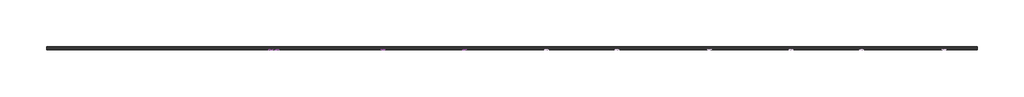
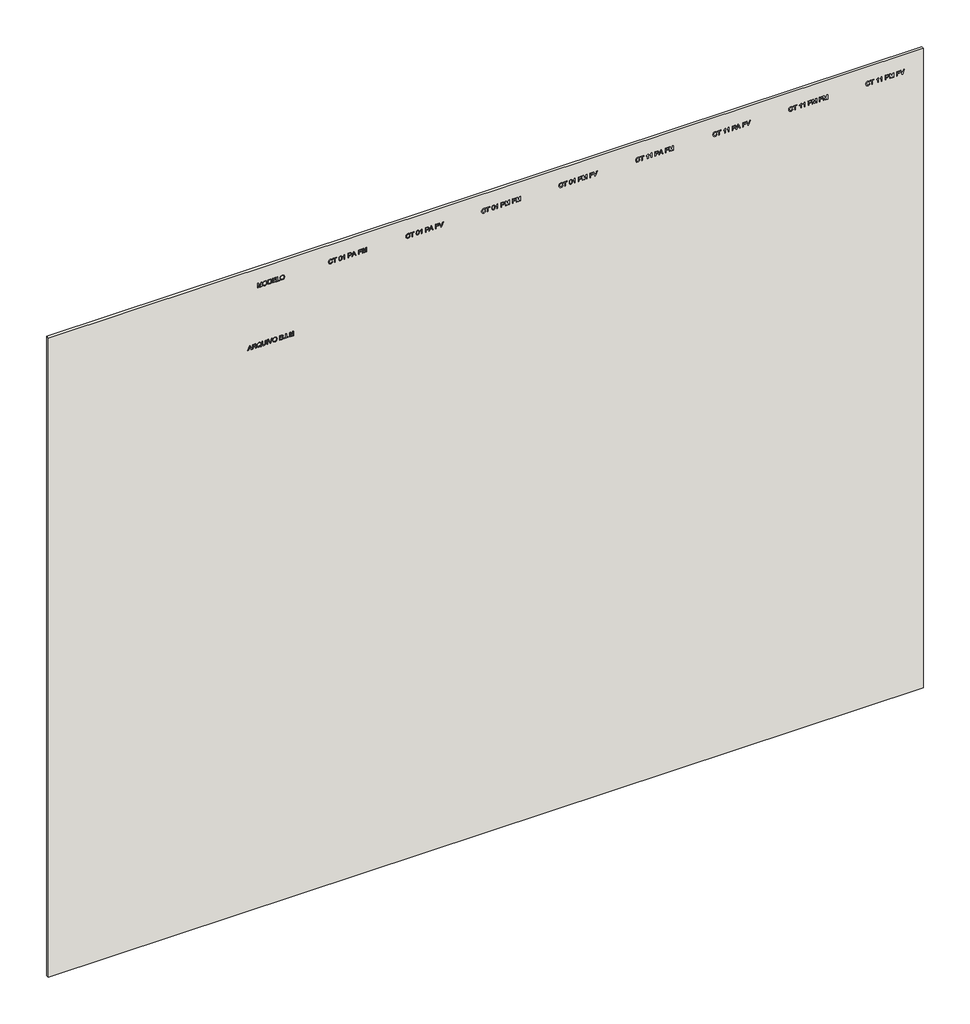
# One storey, part 1 of 2: 4 proxies, 1 wall.
"""IFC4 building model written with IfcOpenShell, lengths in millimetres."""

from ifc_helpers import new_model, si_unit, frame, origin, place, context, project, spatial, polyline, outline, extrude, element, save

model = new_model("IFC4")

# Units and contexts
model_context = context("Model", 3, world=origin())
ifc_project = project(units=[si_unit("LENGTHUNIT", "METRE", prefix="MILLI")], contexts=[model_context])

# Site, building, storey
site = spatial("IfcSite", under=ifc_project)
building = spatial("IfcBuilding", under=site)
storey = spatial("IfcBuildingStorey", under=building, Name="01 - Marelli - Planta Baixa - Cabine 01 Pessoa", Elevation=0.0)

# Proxies
placement = place(None, origin())
element("IfcBuildingElementProxy", 1, Name="300mm Arial", ObjectType="300mm Arial", at=placement, inside=storey, context=model_context, shape_type="SweptSolid", body=[
    extrude(outline(polyline([(1600.0, -7636.3146377), (1600.0, -7596.5098058), (1694.1777908, -7562.076051), (1694.1777908, -7437.9526659), (1600.0, -7403.4453347), (1600.0, -7363.6405028), (1901.3689304, -7483.9379153), (1901.3689304, -7516.0172252), (1600.0, -7636.3146377)]), holes=[polyline([(1731.8489071, -7548.243688), (1812.415064, -7518.739552), (1863.6978141, -7499.9775703), (1805.9403409, -7478.8611437), (1731.8489071, -7451.7114525), (1731.8489071, -7548.243688)])]), frame((0.0, 8778.3159498, 0.0), z_axis=(0.0, 1.0, 0.0), x_axis=(0.0, 0.0, 1.0)), (0.0, 0.0, 1.0), 10.0),
    extrude(outline(polyline([(1600.0, -7323.3942126), (1600.0, -7285.7230963), (1731.8489071, -7285.7230963), (1731.8489071, -7240.2528817), (1730.5245319, -7218.4006911), (1723.350833, -7200.484838), (1703.816299, -7180.582422), (1662.4663628, -7152.2555084), (1600.0, -7113.0392877), (1600.0, -7069.2613303), (1681.6698029, -7119.5140108), (1720.4445652, -7150.0482164), (1736.5577966, -7171.4589486), (1746.5457928, -7134.3488523), (1754.5610217, -7119.9669655), (1764.5904046, -7108.3671864), (1789.2017101, -7093.0540983), (1818.8897871, -7087.9497357), (1842.7561316, -7091.0307474), (1864.4703663, -7100.2737825), (1881.9815493, -7114.6763626), (1893.2387384, -7133.2360093), (1899.3363824, -7158.629064), (1901.3689304, -7193.5318683), (1901.3689304, -7323.3942126), (1600.0, -7323.3942126)]), holes=[polyline([(1769.5200234, -7285.7230963), (1863.6978141, -7285.7230963), (1863.6978141, -7191.9131875), (1860.4420585, -7162.1055488), (1850.6747915, -7141.5501423), (1835.8675412, -7129.6031746), (1817.4918355, -7125.620852), (1804.1837044, -7127.7085823), (1791.9240369, -7133.9717732), (1781.7888879, -7144.254075), (1774.8543123, -7158.3991377), (1770.8535956, -7177.1887106), (1769.5200234, -7201.404543), (1769.5200234, -7285.7230963)])]), frame((0.0, 8778.3159498, 0.0), z_axis=(0.0, 1.0, 0.0), x_axis=(0.0, 0.0, 1.0)), (0.0, 0.0, 1.0), 10.0),
    extrude(outline(polyline([(1636.1260119, -6795.6307023), (1659.6520655, -6777.1814202), (1686.9673037, -6764.0664271), (1718.0349382, -6756.2305406), (1752.8181808, -6753.6185784), (1794.6463636, -6757.9227978), (1831.9863862, -6770.8354558), (1863.1827793, -6791.9610794), (1886.5800742, -6820.9041954), (1901.2033836, -6855.7702114), (1906.07782, -6894.6645354), (1901.3137481, -6933.2553567), (1887.0215326, -6967.9466288), (1863.6150407, -6996.93573), (1831.5081396, -7018.4200386), (1793.055274, -7031.7189727), (1750.6108888, -7036.1519507), (1708.2032918, -7031.7097756), (1670.3022493, -7018.3832504), (1638.6460036, -6996.8161684), (1614.9727972, -6967.6523232), (1600.2115321, -6932.8322924), (1595.2911105, -6894.2966534), (1599.5585416, -6855.9449554), (1612.360835, -6821.0881364), (1591.52032, -6790.1308665), (1577.1177399, -6759.063232), (1604.7088895, -6748.9096889), (1617.5295771, -6771.2953083), (1636.1260119, -6795.6307023)]), holes=[polyline([(1686.2315397, -6883.9223811), (1657.3895912, -6893.6344658), (1650.712533, -6873.2721974), (1640.6877487, -6853.9767867), (1634.8936072, -6873.6032912), (1632.9622268, -6894.5173826), (1634.8637168, -6916.2385151), (1640.568187, -6935.9316982), (1650.0756373, -6953.5969318), (1663.3860678, -6969.2342158), (1680.251158, -6982.0296115), (1700.4225876, -6991.1691798), (1723.9003567, -6996.6529208), (1750.6844652, -6998.4808344), (1778.1859436, -6996.6322274), (1802.0499888, -6991.0864063), (1822.2766007, -6981.8433712), (1838.8657795, -6968.903122), (1851.7899338, -6953.1577726), (1861.0214726, -6935.4994369), (1866.5603959, -6915.9281147), (1868.4067037, -6894.4438062), (1864.7554749, -6865.9605427), (1853.8017885, -6840.4019411), (1836.2354232, -6819.2027411), (1812.7461578, -6803.7976826), (1784.0605592, -6794.4166917), (1750.9051944, -6791.2896947), (1721.7321522, -6793.5015852), (1696.4586591, -6800.1372567), (1675.0847152, -6811.1967092), (1657.6103204, -6826.6799427), (1674.2569807, -6852.2477413), (1686.2315397, -6883.9223811)])]), frame((0.0, 8778.3159498, 0.0), z_axis=(0.0, 1.0, 0.0), x_axis=(0.0, 0.0, 1.0)), (0.0, 0.0, 1.0), 10.0),
    extrude(outline(polyline([(1901.3689304, -6499.3385434), (1728.8322747, -6499.3385434), (1681.6698029, -6504.1026152), (1664.9311721, -6510.057705), (1652.7542781, -6518.3948307), (1644.0952556, -6529.5278596), (1637.9102396, -6543.8706589), (1632.9622268, -6582.1855687), (1635.4638243, -6606.3554158), (1642.968617, -6626.4785609), (1655.0811317, -6641.9112106), (1671.4058953, -6652.0095714), (1694.9779341, -6657.5829836), (1728.8322747, -6659.4407877), (1901.3689304, -6659.4407877), (1901.3689304, -6697.111904), (1727.5078995, -6697.111904), (1684.7324205, -6694.2516215), (1652.0553023, -6685.6707739), (1627.6923172, -6670.4036711), (1609.8592375, -6647.4846228), (1598.9331422, -6616.904432), (1595.2911105, -6578.6539015), (1599.4757682, -6539.5480454), (1612.0297412, -6508.7563224), (1631.2515755, -6486.2235502), (1655.4398167, -6471.8945465), (1686.7925597, -6464.2242069), (1727.5078995, -6461.6674271), (1901.3689304, -6461.6674271), (1901.3689304, -6499.3385434)])), frame((0.0, 8778.3159498, 0.0), z_axis=(0.0, 1.0, 0.0), x_axis=(0.0, 0.0, 1.0)), (0.0, 0.0, 1.0), 10.0),
    extrude(outline(polyline([(-6353.3629677, 8778.3159498), (-6391.034084, 8778.3159498), (-6391.034084, 8788.3159498), (-6353.3629677, 8788.3159498), (-6353.3629677, 8778.3159498)])), frame((0.0, 0.0, 1600.0), z_axis=(0.0, 0.0, 1.0), x_axis=(1.0, 0.0, 0.0)), (0.0, 0.0, 1.0), 301.3689304),
    extrude(outline(polyline([(1600.0, -6188.9932922), (1600.0, -6150.0713771), (1901.3689304, -6035.2186183), (1901.3689304, -6075.5384849), (1684.2449769, -6156.0310655), (1635.3166715, -6172.0707205), (1684.2449769, -6188.3311046), (1901.3689304, -6268.602956), (1901.3689304, -6308.9228227), (1600.0, -6188.9932922)])), frame((0.0, 8778.3159498, 0.0), z_axis=(0.0, 1.0, 0.0), x_axis=(0.0, 0.0, 1.0)), (0.0, 0.0, 1.0), 10.0),
    extrude(outline(polyline([(1746.7113397, -6014.3229209), (1708.1665036, -6010.0187016), (1671.7002009, -5997.1060436), (1640.007167, -5975.8424642), (1615.7821376, -5946.485481), (1600.4138672, -5910.8377157), (1595.2911105, -5870.70179), (1599.9264236, -5832.892718), (1613.832363, -5797.7507904), (1636.7514113, -5767.7868019), (1668.4260511, -5745.5115471), (1706.8881137, -5731.6883811), (1750.1694304, -5727.0806591), (1792.8805301, -5731.4584548), (1830.8091638, -5744.5918421), (1862.4286213, -5766.0761506), (1886.2121922, -5795.5067102), (1901.1114131, -5830.9521404), (1906.07782, -5870.4810608), (1903.4336681, -5900.7715446), (1895.5012126, -5928.1465636), (1882.2804534, -5952.6061177), (1863.7713905, -5974.1502071), (1840.5902263, -5991.7257694), (1813.3531631, -6004.2797425), (1782.0602009, -6011.8121263), (1746.7113397, -6014.3229209)]), holes=[polyline([(1746.3434577, -5976.6518046), (1776.8799625, -5974.6882345), (1802.7121764, -5968.797524), (1823.8400992, -5958.9796733), (1840.263731, -5945.2346822), (1852.5762816, -5928.7673644), (1861.3709605, -5910.7825334), (1866.6477679, -5891.2801891), (1868.4067037, -5870.2603316), (1864.7554749, -5841.0964864), (1853.8017885, -5814.9676677), (1836.2078321, -5793.3086153), (1812.6357932, -5777.5540688), (1783.8122389, -5767.9523488), (1750.463736, -5764.7517754), (1723.9256486, -5766.6210758), (1700.5973316, -5772.228977), (1680.478785, -5781.5754789), (1663.5700088, -5794.6605816), (1650.1791041, -5810.642755), (1640.6141723, -5828.6804691), (1634.8752131, -5848.7737238), (1632.9622268, -5870.9225192), (1634.856819, -5892.6988341), (1640.5405959, -5912.557564), (1650.0135572, -5930.4987091), (1663.2757032, -5946.5222692), (1679.8349915, -5959.703941), (1699.19938, -5969.1194208), (1721.3688687, -5974.7687087), (1746.3434577, -5976.6518046)])]), frame((0.0, 8778.3159498, 0.0), z_axis=(0.0, 1.0, 0.0), x_axis=(0.0, 0.0, 1.0)), (0.0, 0.0, 1.0), 10.0),
    extrude(outline(polyline([(1600.0, -5557.5606357), (1600.0, -5443.4436408), (1605.1871361, -5395.1407348), (1611.6066769, -5377.10532), (1620.4910271, -5362.3624491), (1632.7598917, -5350.3235108), (1649.3329756, -5340.399894), (1668.8215242, -5333.7504269), (1689.8367832, -5331.5339379), (1715.055094, -5334.7804965), (1736.7049494, -5344.5201723), (1753.6643094, -5360.2931129), (1764.8111338, -5381.6394656), (1776.5557665, -5363.7695977), (1791.4825785, -5351.0684718), (1808.543106, -5343.4809057), (1826.6888854, -5340.951717), (1846.4073604, -5343.9591523), (1865.2429185, -5352.9814582), (1881.2549824, -5367.3104619), (1892.5029744, -5386.2379906), (1899.1524414, -5410.9320695), (1901.3689304, -5442.560724), (1901.3689304, -5557.5606357), (1600.0, -5557.5606357)]), holes=[polyline([(1778.9378025, -5519.8895194), (1863.6978141, -5519.8895194), (1863.6978141, -5456.3195106), (1859.7614768, -5407.9062401), (1854.1604734, -5395.4166463), (1845.230138, -5386.2012024), (1833.7890079, -5380.5174255), (1820.6556207, -5378.6228333), (1807.1267603, -5380.6553813), (1796.1178916, -5386.7530254), (1787.7577733, -5396.8605832), (1782.175164, -5410.9228724), (1778.9378025, -5451.0955863), (1778.9378025, -5519.8895194)]), polyline([(1637.6711163, -5519.8895194), (1741.2666861, -5519.8895194), (1741.2666861, -5446.3131204), (1740.0066903, -5419.4853259), (1736.2267028, -5399.776048), (1729.3381125, -5385.8609115), (1718.752308, -5376.4155413), (1705.2142506, -5371.007676), (1689.4689012, -5369.2050542), (1675.9124497, -5370.7409615), (1664.0850436, -5375.3486835), (1647.3464128, -5391.0204565), (1639.1426443, -5414.6752688), (1637.6711163, -5442.6343004), (1637.6711163, -5519.8895194)])]), frame((0.0, 8778.3159498, 0.0), z_axis=(0.0, 1.0, 0.0), x_axis=(0.0, 0.0, 1.0)), (0.0, 0.0, 1.0), 10.0),
    extrude(outline(polyline([(-5237.3561471, 8778.3159498), (-5275.0272634, 8778.3159498), (-5275.0272634, 8788.3159498), (-5237.3561471, 8788.3159498), (-5237.3561471, 8778.3159498)])), frame((0.0, 0.0, 1600.0), z_axis=(0.0, 0.0, 1.0), x_axis=(1.0, 0.0, 0.0)), (0.0, 0.0, 1.0), 37.6711163),
    extrude(outline(polyline([(-5119.6339087, 8778.3159498), (-5157.305025, 8778.3159498), (-5157.305025, 8788.3159498), (-5119.6339087, 8788.3159498), (-5119.6339087, 8778.3159498)])), frame((0.0, 0.0, 1600.0), z_axis=(0.0, 0.0, 1.0), x_axis=(1.0, 0.0, 0.0)), (0.0, 0.0, 1.0), 301.3689304),
    extrude(outline(polyline([(-5001.9116702, 8778.3159498), (-5039.5827865, 8778.3159498), (-5039.5827865, 8788.3159498), (-5001.9116702, 8788.3159498), (-5001.9116702, 8778.3159498)])), frame((0.0, 0.0, 1600.0), z_axis=(0.0, 0.0, 1.0), x_axis=(1.0, 0.0, 0.0)), (0.0, 0.0, 1.0), 37.6711163),
    extrude(outline(polyline([(1600.0, -4926.5694376), (1600.0, -4888.8983213), (1863.6978141, -4888.8983213), (1600.0, -4813.1882067), (1600.0, -4762.1261857), (1863.6978141, -4686.4160711), (1600.0, -4686.4160711), (1600.0, -4648.7449548), (1901.3689304, -4648.7449548), (1901.3689304, -4713.5657624), (1692.6326864, -4774.1927152), (1644.5872978, -4787.6571962), (1688.9538664, -4800.0916076), (1901.3689304, -4861.74863), (1901.3689304, -4926.5694376), (1600.0, -4926.5694376)])), frame((0.0, 8778.3159498, 0.0), z_axis=(0.0, 1.0, 0.0), x_axis=(0.0, 0.0, 1.0)), (0.0, 0.0, 1.0), 10.0),
])
element("IfcBuildingElementProxy", 2, Name="300mm Arial", ObjectType="300mm Arial", at=placement, inside=storey, context=model_context, shape_type="SweptSolid", body=[
    extrude(outline(polyline([(5700.0, -6993.7719449), (5700.0, -6956.1008286), (5963.6978141, -6956.1008286), (5700.0, -6880.390714), (5700.0, -6829.328693), (5963.6978141, -6753.6185784), (5700.0, -6753.6185784), (5700.0, -6715.9474621), (6001.3689304, -6715.9474621), (6001.3689304, -6780.7682697), (5792.6326864, -6841.3952225), (5744.5872978, -6854.8597035), (5788.9538664, -6867.2941149), (6001.3689304, -6928.9511373), (6001.3689304, -6993.7719449), (5700.0, -6993.7719449)])), frame((0.0, 8778.3159498, 0.0), z_axis=(0.0, 1.0, 0.0), x_axis=(0.0, 0.0, 1.0)), (0.0, 0.0, 1.0), 10.0),
    extrude(outline(polyline([(5846.7113397, -6664.1496772), (5808.1665036, -6659.8454579), (5771.7002009, -6646.9327998), (5740.007167, -6625.6692205), (5715.7821376, -6596.3122373), (5700.4138672, -6560.664472), (5695.2911105, -6520.5285463), (5699.9264236, -6482.7194742), (5713.832363, -6447.5775466), (5736.7514113, -6417.6135581), (5768.4260511, -6395.3383033), (5806.8881137, -6381.5151374), (5850.1694304, -6376.9074154), (5892.8805301, -6381.2852111), (5930.8091638, -6394.4185983), (5962.4286213, -6415.9029069), (5986.2121922, -6445.3334665), (6001.1114131, -6480.7788967), (6006.07782, -6520.3078171), (6003.4336681, -6550.5983009), (5995.5012126, -6577.9733198), (5982.2804534, -6602.432874), (5963.7713905, -6623.9769633), (5940.5902263, -6641.5525257), (5913.3531631, -6654.1064987), (5882.0602009, -6661.6388826), (5846.7113397, -6664.1496772)]), holes=[polyline([(5846.3434577, -6626.4785609), (5876.8799625, -6624.5149908), (5902.7121764, -6618.6242803), (5923.8400992, -6608.8064296), (5940.263731, -6595.0614385), (5952.5762816, -6578.5941207), (5961.3709605, -6560.6092897), (5966.6477679, -6541.1069454), (5968.4067037, -6520.0870879), (5964.7554749, -6490.9232427), (5953.8017885, -6464.794424), (5936.2078321, -6443.1353716), (5912.6357932, -6427.3808251), (5883.8122389, -6417.779105), (5850.463736, -6414.5785317), (5823.9256486, -6416.4478321), (5800.5973316, -6422.0557332), (5780.478785, -6431.4022352), (5763.5700088, -6444.4873379), (5750.1791041, -6460.4695113), (5740.6141723, -6478.5072254), (5734.8752131, -6498.6004801), (5732.9622268, -6520.7492755), (5734.856819, -6542.5255903), (5740.5405959, -6562.3843203), (5750.0135572, -6580.3254653), (5763.2757032, -6596.3490255), (5779.8349915, -6609.5306972), (5799.19938, -6618.9461771), (5821.3688687, -6624.5954649), (5846.3434577, -6626.4785609)])]), frame((0.0, 8778.3159498, 0.0), z_axis=(0.0, 1.0, 0.0), x_axis=(0.0, 0.0, 1.0)), (0.0, 0.0, 1.0), 10.0),
    extrude(outline(polyline([(5700.0, -6325.1096305), (5700.0, -6216.1429835), (5705.1503479, -6167.6929247), (5711.5055094, -6148.1491937), (5720.2702979, -6131.6772774), (5732.088507, -6117.3298796), (5747.6039302, -6104.1597042), (5767.2580258, -6092.7185741), (5791.4922522, -6083.5583124), (5819.9571216, -6077.5434418), (5852.303146, -6075.5384849), (5890.3789325, -6078.499935), (5923.9665587, -6087.3842852), (5952.5142015, -6102.2283237), (5975.470038, -6123.0688387), (5988.6586075, -6143.3391366), (5997.0279229, -6167.3618309), (6001.3689304, -6221.1461786), (6001.3689304, -6325.1096305), (5700.0, -6325.1096305)]), holes=[polyline([(5737.6711163, -6287.4385141), (5963.6978141, -6287.4385141), (5963.6978141, -6221.8083662), (5962.189498, -6190.06015), (5957.6645494, -6168.3919005), (5945.0829852, -6147.10073), (5924.2608643, -6129.2860444), (5893.9473879, -6117.228712), (5852.8917572, -6113.2096012), (5821.9068962, -6115.2605434), (5795.9068361, -6121.4133697), (5774.7996067, -6131.245016), (5758.4932372, -6144.332418), (5749.6824634, -6156.5093121), (5743.1157698, -6172.2914497), (5739.0322797, -6193.2055411), (5737.6711163, -6220.7782966), (5737.6711163, -6287.4385141)])]), frame((0.0, 8778.3159498, 0.0), z_axis=(0.0, 1.0, 0.0), x_axis=(0.0, 0.0, 1.0)), (0.0, 0.0, 1.0), 10.0),
    extrude(outline(polyline([(5700.0, -6023.7407), (5700.0, -5802.4228917), (5737.6711163, -5802.4228917), (5737.6711163, -5986.0695837), (5836.5577966, -5986.0695837), (5836.5577966, -5816.5495603), (5874.2289129, -5816.5495603), (5874.2289129, -5986.0695837), (5963.6978141, -5986.0695837), (5963.6978141, -5807.1317812), (6001.3689304, -5807.1317812), (6001.3689304, -6023.7407), (5700.0, -6023.7407)])), frame((0.0, 8778.3159498, 0.0), z_axis=(0.0, 1.0, 0.0), x_axis=(0.0, 0.0, 1.0)), (0.0, 0.0, 1.0), 10.0),
    extrude(outline(polyline([(5700.0, -5745.9162172), (5700.0, -5557.5606357), (5737.6711163, -5557.5606357), (5737.6711163, -5708.2451009), (6001.3689304, -5708.2451009), (6001.3689304, -5745.9162172), (5700.0, -5745.9162172)])), frame((0.0, 8778.3159498, 0.0), z_axis=(0.0, 1.0, 0.0), x_axis=(0.0, 0.0, 1.0)), (0.0, 0.0, 1.0), 10.0),
    extrude(outline(polyline([(5846.7113397, -5529.3072985), (5808.1665036, -5525.0030791), (5771.7002009, -5512.0904211), (5740.007167, -5490.8268418), (5715.7821376, -5461.4698586), (5700.4138672, -5425.8220932), (5695.2911105, -5385.6861676), (5699.9264236, -5347.8770955), (5713.832363, -5312.7351679), (5736.7514113, -5282.7711794), (5768.4260511, -5260.4959246), (5806.8881137, -5246.6727586), (5850.1694304, -5242.0650367), (5892.8805301, -5246.4428324), (5930.8091638, -5259.5762196), (5962.4286213, -5281.0605281), (5986.2121922, -5310.4910878), (6001.1114131, -5345.936518), (6006.07782, -5385.4654384), (6003.4336681, -5415.7559222), (5995.5012126, -5443.1309411), (5982.2804534, -5467.5904953), (5963.7713905, -5489.1345846), (5940.5902263, -5506.7101469), (5913.3531631, -5519.26412), (5882.0602009, -5526.7965039), (5846.7113397, -5529.3072985)]), holes=[polyline([(5846.3434577, -5491.6361822), (5876.8799625, -5489.672612), (5902.7121764, -5483.7819016), (5923.8400992, -5473.9640508), (5940.263731, -5460.2190598), (5952.5762816, -5443.751742), (5961.3709605, -5425.7669109), (5966.6477679, -5406.2645667), (5968.4067037, -5385.2447092), (5964.7554749, -5356.080864), (5953.8017885, -5329.9520453), (5936.2078321, -5308.2929928), (5912.6357932, -5292.5384464), (5883.8122389, -5282.9367263), (5850.463736, -5279.736153), (5823.9256486, -5281.6054533), (5800.5973316, -5287.2133545), (5780.478785, -5296.5598565), (5763.5700088, -5309.6449592), (5750.1791041, -5325.6271326), (5740.6141723, -5343.6648467), (5734.8752131, -5363.7581014), (5732.9622268, -5385.9068968), (5734.856819, -5407.6832116), (5740.5405959, -5427.5419416), (5750.0135572, -5445.4830866), (5763.2757032, -5461.5066468), (5779.8349915, -5474.6883185), (5799.19938, -5484.1037983), (5821.3688687, -5489.7530862), (5846.3434577, -5491.6361822)])]), frame((0.0, 8778.3159498, 0.0), z_axis=(0.0, 1.0, 0.0), x_axis=(0.0, 0.0, 1.0)), (0.0, 0.0, 1.0), 10.0),
])
element("IfcBuildingElementProxy", 3, Name="300mm Arial", ObjectType="300mm Arial", at=placement, inside=storey, context=model_context, shape_type="SweptSolid", body=[
    extrude(outline(polyline([(5807.127237, -2142.1019653), (5774.863986, -2154.2880564), (5751.6506321, -2174.0709107), (5737.6343281, -2200.2733058), (5732.9622268, -2231.7180194), (5736.3927264, -2258.6929667), (5746.6842252, -2283.6997453), (5763.9102996, -2304.5586544), (5788.144526, -2319.0899932), (5818.2372732, -2327.6156585), (5853.03891, -2330.4575469), (5881.4577941, -2328.0571169), (5909.0305497, -2320.8558268), (5933.4211259, -2307.7316366), (5952.2934723, -2287.5625062), (5964.3783958, -2260.9830321), (5968.4067037, -2228.6278106), (5964.773869, -2200.5584144), (5953.8753649, -2177.7129425), (5935.0306097, -2159.8706657), (5907.5590217, -2146.8108549), (5916.5353424, -2109.1397386), (5954.3536115, -2125.7772018), (5969.6758966, -2137.5793161), (5982.6069487, -2151.7036854), (5992.8754549, -2167.8835954), (6000.2101022, -2185.8523316), (6006.07782, -2227.1562826), (6001.5436744, -2265.0113399), (5987.9412376, -2299.5554593), (5965.6016035, -2328.6825162), (5934.8558657, -2350.2863864), (5896.9088379, -2363.668094), (5852.9653336, -2368.1286632), (5811.3026976, -2364.1831288), (5772.3991767, -2352.3465256), (5739.3081912, -2332.9591444), (5715.0831618, -2306.3612762), (5700.2391233, -2271.660807), (5695.2911105, -2227.965623), (5696.9258861, -2205.5432154), (5701.8302129, -2184.9234296), (5710.004091, -2166.1062655), (5721.4475203, -2149.0917233), (5736.004151, -2134.2154951), (5753.5176332, -2121.8132733), (5773.987967, -2111.885058), (5797.4151523, -2104.430849), (5807.127237, -2142.1019653)])), frame((0.0, 8778.3159498, 0.0), z_axis=(0.0, 1.0, 0.0), x_axis=(0.0, 0.0, 1.0)), (0.0, 0.0, 1.0), 10.0),
    extrude(outline(polyline([(5700.0, -1977.2908315), (5700.0, -1939.6197152), (5963.6978141, -1939.6197152), (5963.6978141, -1840.7330349), (6001.3689304, -1840.7330349), (6001.3689304, -2076.1775118), (5963.6978141, -2076.1775118), (5963.6978141, -1977.2908315), (5700.0, -1977.2908315)])), frame((0.0, 8778.3159498, 0.0), z_axis=(0.0, 1.0, 0.0), x_axis=(0.0, 0.0, 1.0)), (0.0, 0.0, 1.0), 10.0),
    extrude(outline(polyline([(5848.2564441, -1694.7574592), (5808.8148956, -1692.881261), (5774.9559565, -1687.2526665), (5746.6796267, -1677.8716756), (5723.9859061, -1664.7382884), (5711.431933, -1651.0530782), (5702.4648094, -1635.0134232), (5697.0845352, -1616.6193234), (5695.2911105, -1595.8707789), (5699.4205859, -1565.4193468), (5711.809012, -1540.7252678), (5732.5943448, -1521.6229952), (5761.9145398, -1507.9469821), (5800.2938289, -1499.7248195), (5848.2564441, -1496.9840986), (5888.2176258, -1498.6947499), (5919.0737281, -1503.8267037), (5943.3723339, -1511.6625902), (5963.6610259, -1521.4850395), (5979.8018485, -1534.489668), (5991.6568458, -1551.8720923), (5998.9409093, -1572.657425), (6001.3689304, -1595.8707789), (5997.2670462, -1626.1566642), (5984.9613935, -1650.7955608), (5964.2588342, -1669.9254245), (5934.9662303, -1683.6842112), (5896.4949707, -1691.9891472), (5848.2564441, -1694.7574592)]), holes=[polyline([(5848.3300205, -1657.0863429), (5906.8232577, -1652.5246062), (5927.902896, -1646.8224352), (5943.5378808, -1638.8393959), (5958.6578308, -1619.8934732), (5963.6978141, -1596.3122373), (5957.9772491, -1571.4066262), (5940.815554, -1551.7249395), (5926.4543607, -1544.256935), (5906.2530406, -1538.9226461), (5848.3300205, -1534.6552149), (5789.1653986, -1539.0697988), (5768.9019984, -1544.5880288), (5754.8512055, -1552.3135507), (5738.4344714, -1572.0320256), (5732.9622268, -1595.8707789), (5738.4160773, -1619.7095322), (5754.7776291, -1639.4280071), (5768.8054294, -1647.153529), (5789.0734281, -1652.671759), (5848.3300205, -1657.0863429)])]), frame((0.0, 8778.3159498, 0.0), z_axis=(0.0, 1.0, 0.0), x_axis=(0.0, 0.0, 1.0)), (0.0, 0.0, 1.0), 10.0),
    extrude(outline(polyline([(5700.0, -1322.7551857), (6001.3689304, -1322.7551857), (6001.3689304, -1347.0353974), (5981.6320614, -1360.3435285), (5961.269793, -1380.5494471), (5942.1215351, -1406.1816251), (5926.0266978, -1435.7685346), (5890.4157207, -1435.7685346), (5909.4352199, -1396.1108555), (5934.8558657, -1360.426302), (5700.0, -1360.426302), (5700.0, -1322.7551857)])), frame((0.0, 8778.3159498, 0.0), z_axis=(0.0, 1.0, 0.0), x_axis=(0.0, 0.0, 1.0)), (0.0, 0.0, 1.0), 10.0),
    extrude(outline(polyline([(5700.0, -1101.4373774), (5700.0, -1063.7662611), (5822.431128, -1063.7662611), (5822.431128, -987.1732297), (5824.095794, -957.9748956), (5829.0897921, -933.6555964), (5837.4131222, -914.2153323), (5849.0657844, -899.654103), (5863.1234752, -889.0476053), (5878.661891, -881.4715354), (5895.6810318, -876.9258935), (5914.1808976, -875.4106796), (5935.637615, -877.6547597), (5955.2733165, -884.3870002), (5971.9199767, -894.8072577), (5984.4095705, -908.1153889), (5993.1375708, -924.6424876), (5998.4994509, -944.7196474), (6001.3689304, -989.7484037), (6001.3689304, -1101.4373774), (5700.0, -1101.4373774)]), holes=[polyline([(5860.1022443, -1063.7662611), (5963.6978141, -1063.7662611), (5963.6978141, -985.8488545), (5961.1226402, -948.1777382), (5954.7950699, -933.949902), (5944.0529156, -922.7570923), (5929.7790942, -915.50062), (5912.8565224, -913.0817959), (5890.5812676, -917.1836801), (5873.9346073, -929.4893328), (5863.5603351, -951.5622526), (5860.1022443, -984.9659377), (5860.1022443, -1063.7662611)])]), frame((0.0, 8778.3159498, 0.0), z_axis=(0.0, 1.0, 0.0), x_axis=(0.0, 0.0, 1.0)), (0.0, 0.0, 1.0), 10.0),
    extrude(outline(polyline([(5700.0, -858.708837), (5700.0, -818.9040051), (5794.1777908, -784.4702503), (5794.1777908, -660.3468652), (5700.0, -625.839534), (5700.0, -586.0347021), (6001.3689304, -706.3321146), (6001.3689304, -738.4114245), (5700.0, -858.708837)]), holes=[polyline([(5831.8489071, -770.6378873), (5912.415064, -741.1337513), (5963.6978141, -722.3717696), (5905.9403409, -701.255343), (5831.8489071, -674.1056518), (5831.8489071, -770.6378873)])]), frame((0.0, 8778.3159498, 0.0), z_axis=(0.0, 1.0, 0.0), x_axis=(0.0, 0.0, 1.0)), (0.0, 0.0, 1.0), 10.0),
    extrude(outline(polyline([(5700.0, -428.0661734), (5700.0, -390.3950571), (5836.5577966, -390.3950571), (5836.5577966, -249.128371), (5874.2289129, -249.128371), (5874.2289129, -390.3950571), (5963.6978141, -390.3950571), (5963.6978141, -225.5839233), (6001.3689304, -225.5839233), (6001.3689304, -428.0661734), (5700.0, -428.0661734)])), frame((0.0, 8778.3159498, 0.0), z_axis=(0.0, 1.0, 0.0), x_axis=(0.0, 0.0, 1.0)), (0.0, 0.0, 1.0), 10.0),
    extrude(outline(polyline([(5700.0, -173.7861383), (5700.0, -136.115022), (5963.6978141, -136.115022), (5700.0, -60.4049074), (5700.0, -9.3428865), (5963.6978141, 66.3672281), (5700.0, 66.3672281), (5700.0, 104.0383444), (6001.3689304, 104.0383444), (6001.3689304, 39.2175369), (5792.6326864, -21.4094159), (5744.5872978, -34.873897), (5788.9538664, -47.3083084), (6001.3689304, -108.9653308), (6001.3689304, -173.7861383), (5700.0, -173.7861383)])), frame((0.0, 8778.3159498, 0.0), z_axis=(0.0, 1.0, 0.0), x_axis=(0.0, 0.0, 1.0)), (0.0, 0.0, 1.0), 10.0),
])
element("IfcBuildingElementProxy", 4, Name="300mm Arial", ObjectType="300mm Arial", at=placement, inside=storey, context=model_context, shape_type="SweptSolid", body=[
    extrude(outline(polyline([(5807.127237, 2890.8602614), (5774.863986, 2878.6741703), (5751.6506321, 2858.891316), (5737.6343281, 2832.6889209), (5732.9622268, 2801.2442074), (5736.3927264, 2774.2692601), (5746.6842252, 2749.2624815), (5763.9102996, 2728.4035724), (5788.144526, 2713.8722335), (5818.2372732, 2705.3465683), (5853.03891, 2702.5046799), (5881.4577941, 2704.9051099), (5909.0305497, 2712.1064), (5933.4211259, 2725.2305901), (5952.2934723, 2745.3997205), (5964.3783958, 2771.9791947), (5968.4067037, 2804.3344162), (5964.773869, 2832.4038124), (5953.8753649, 2855.2492843), (5935.0306097, 2873.0915611), (5907.5590217, 2886.1513719), (5916.5353424, 2923.8224882), (5954.3536115, 2907.185025), (5969.6758966, 2895.3829107), (5982.6069487, 2881.2585414), (5992.8754549, 2865.0786314), (6000.2101022, 2847.1098951), (6006.07782, 2805.8059441), (6001.5436744, 2767.9508868), (5987.9412376, 2733.4067675), (5965.6016035, 2704.2797105), (5934.8558657, 2682.6758404), (5896.9088379, 2669.2941328), (5852.9653336, 2664.8335636), (5811.3026976, 2668.779098), (5772.3991767, 2680.6157012), (5739.3081912, 2700.0030823), (5715.0831618, 2726.6009506), (5700.2391233, 2761.3014198), (5695.2911105, 2804.9966038), (5696.9258861, 2827.4190114), (5701.8302129, 2848.0387972), (5710.004091, 2866.8559612), (5721.4475203, 2883.8705035), (5736.004151, 2898.7467317), (5753.5176332, 2911.1489535), (5773.987967, 2921.0771688), (5797.4151523, 2928.5313777), (5807.127237, 2890.8602614)])), frame((0.0, 8778.3159498, 0.0), z_axis=(0.0, 1.0, 0.0), x_axis=(0.0, 0.0, 1.0)), (0.0, 0.0, 1.0), 10.0),
    extrude(outline(polyline([(5700.0, 3055.6713953), (5700.0, 3093.3425116), (5963.6978141, 3093.3425116), (5963.6978141, 3192.2291919), (6001.3689304, 3192.2291919), (6001.3689304, 2956.784715), (5963.6978141, 2956.784715), (5963.6978141, 3055.6713953), (5700.0, 3055.6713953)])), frame((0.0, 8778.3159498, 0.0), z_axis=(0.0, 1.0, 0.0), x_axis=(0.0, 0.0, 1.0)), (0.0, 0.0, 1.0), 10.0),
    extrude(outline(polyline([(5848.2564441, 3338.2047676), (5808.8148956, 3340.0809657), (5774.9559565, 3345.7095603), (5746.6796267, 3355.0905511), (5723.9859061, 3368.2239384), (5711.431933, 3381.9091486), (5702.4648094, 3397.9488036), (5697.0845352, 3416.3429033), (5695.2911105, 3437.0914479), (5699.4205859, 3467.54288), (5711.809012, 3492.2369589), (5732.5943448, 3511.3392315), (5761.9145398, 3525.0152447), (5800.2938289, 3533.2374073), (5848.2564441, 3535.9781282), (5888.2176258, 3534.2674769), (5919.0737281, 3529.1355231), (5943.3723339, 3521.2996366), (5963.6610259, 3511.4771873), (5979.8018485, 3498.4725588), (5991.6568458, 3481.0901345), (5998.9409093, 3460.3048018), (6001.3689304, 3437.0914479), (5997.2670462, 3406.8055626), (5984.9613935, 3382.166666), (5964.2588342, 3363.0368022), (5934.9662303, 3349.2780156), (5896.4949707, 3340.9730796), (5848.2564441, 3338.2047676)]), holes=[polyline([(5848.3300205, 3375.8758839), (5906.8232577, 3380.4376206), (5927.902896, 3386.1397915), (5943.5378808, 3394.1228308), (5958.6578308, 3413.0687536), (5963.6978141, 3436.6499895), (5957.9772491, 3461.5556005), (5940.815554, 3481.2372873), (5926.4543607, 3488.7052918), (5906.2530406, 3494.0395807), (5848.3300205, 3498.3070119), (5789.1653986, 3493.8924279), (5768.9019984, 3488.374198), (5754.8512055, 3480.6486761), (5738.4344714, 3460.9302012), (5732.9622268, 3437.0914479), (5738.4160773, 3413.2526946), (5754.7776291, 3393.5342196), (5768.8054294, 3385.8086977), (5789.0734281, 3380.2904678), (5848.3300205, 3375.8758839)])]), frame((0.0, 8778.3159498, 0.0), z_axis=(0.0, 1.0, 0.0), x_axis=(0.0, 0.0, 1.0)), (0.0, 0.0, 1.0), 10.0),
    extrude(outline(polyline([(5700.0, 3710.2070411), (6001.3689304, 3710.2070411), (6001.3689304, 3685.9268294), (5981.6320614, 3672.6186982), (5961.269793, 3652.4127796), (5942.1215351, 3626.7806016), (5926.0266978, 3597.1936922), (5890.4157207, 3597.1936922), (5909.4352199, 3636.8513712), (5934.8558657, 3672.5359248), (5700.0, 3672.5359248), (5700.0, 3710.2070411)])), frame((0.0, 8778.3159498, 0.0), z_axis=(0.0, 1.0, 0.0), x_axis=(0.0, 0.0, 1.0)), (0.0, 0.0, 1.0), 10.0),
    extrude(outline(polyline([(5700.0, 3931.5248494), (5700.0, 3969.1959657), (5822.431128, 3969.1959657), (5822.431128, 4045.7889971), (5824.095794, 4074.9873312), (5829.0897921, 4099.3066303), (5837.4131222, 4118.7468945), (5849.0657844, 4133.3081237), (5863.1234752, 4143.9146215), (5878.661891, 4151.4906913), (5895.6810318, 4156.0363333), (5914.1808976, 4157.5515472), (5935.637615, 4155.307467), (5955.2733165, 4148.5752265), (5971.9199767, 4138.154969), (5984.4095705, 4124.8468378), (5993.1375708, 4108.3197392), (5998.4994509, 4088.2425793), (6001.3689304, 4043.2138231), (6001.3689304, 3931.5248494), (5700.0, 3931.5248494)]), holes=[polyline([(5860.1022443, 3969.1959657), (5963.6978141, 3969.1959657), (5963.6978141, 4047.1133723), (5961.1226402, 4084.7844886), (5954.7950699, 4099.0123247), (5944.0529156, 4110.2051344), (5929.7790942, 4117.4616068), (5912.8565224, 4119.8804309), (5890.5812676, 4115.7785467), (5873.9346073, 4103.4728939), (5863.5603351, 4081.3999742), (5860.1022443, 4047.9962891), (5860.1022443, 3969.1959657)])]), frame((0.0, 8778.3159498, 0.0), z_axis=(0.0, 1.0, 0.0), x_axis=(0.0, 0.0, 1.0)), (0.0, 0.0, 1.0), 10.0),
    extrude(outline(polyline([(5700.0, 4174.2533898), (5700.0, 4214.0582217), (5794.1777908, 4248.4919764), (5794.1777908, 4372.6153616), (5700.0, 4407.1226927), (5700.0, 4446.9275246), (6001.3689304, 4326.6301122), (6001.3689304, 4294.5508022), (5700.0, 4174.2533898)]), holes=[polyline([(5831.8489071, 4262.3243394), (5912.415064, 4291.8284755), (5963.6978141, 4310.5904572), (5905.9403409, 4331.7068837), (5831.8489071, 4358.856575), (5831.8489071, 4262.3243394)])]), frame((0.0, 8778.3159498, 0.0), z_axis=(0.0, 1.0, 0.0), x_axis=(0.0, 0.0, 1.0)), (0.0, 0.0, 1.0), 10.0),
    extrude(outline(polyline([(5700.0, 4604.8960534), (5700.0, 4642.5671697), (5836.5577966, 4642.5671697), (5836.5577966, 4783.8338558), (5874.2289129, 4783.8338558), (5874.2289129, 4642.5671697), (5963.6978141, 4642.5671697), (5963.6978141, 4807.3783035), (6001.3689304, 4807.3783035), (6001.3689304, 4604.8960534), (5700.0, 4604.8960534)])), frame((0.0, 8778.3159498, 0.0), z_axis=(0.0, 1.0, 0.0), x_axis=(0.0, 0.0, 1.0)), (0.0, 0.0, 1.0), 10.0),
    extrude(outline(polyline([(5700.0, 4948.2035313), (5700.0, 4987.1254463), (6001.3689304, 5101.9782052), (6001.3689304, 5061.6583386), (5784.2449769, 4981.165758), (5735.3166715, 4965.126103), (5784.2449769, 4948.8657188), (6001.3689304, 4868.5938675), (6001.3689304, 4828.2740008), (5700.0, 4948.2035313)])), frame((0.0, 8778.3159498, 0.0), z_axis=(0.0, 1.0, 0.0), x_axis=(0.0, 0.0, 1.0)), (0.0, 0.0, 1.0), 10.0),
])

# Wall
element("IfcWall", 5, ObjectType="Genérico - 200 mm", at=placement, inside=storey, context=model_context, shape_type="SweptSolid", body=[
    extrude(outline(polyline([(36375.0181749, 8788.3159498), (-20624.9818251, 8788.3159498), (-20624.9818251, 8988.3159498), (36375.0181749, 8988.3159498), (36375.0181749, 8788.3159498)])), frame((0.0, 0.0, -37000.0), z_axis=(0.0, 0.0, 1.0), x_axis=(1.0, 0.0, 0.0)), (0.0, 0.0, 1.0), 44000.0),
])

save(model, "model.ifc")
